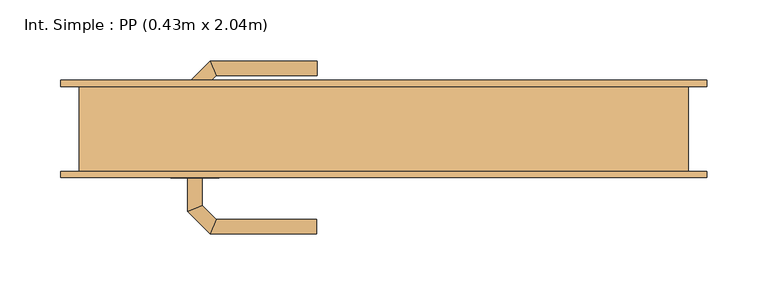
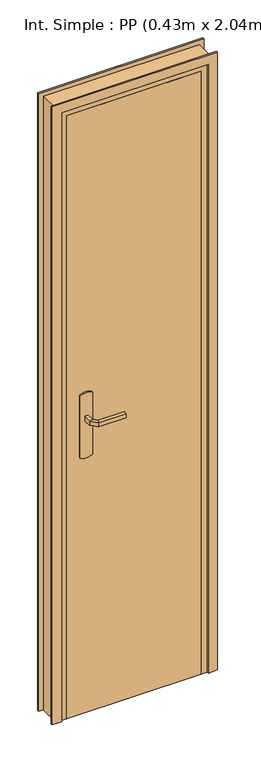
"""IFC4 building model written with IfcOpenShell, lengths in millimetres: door geometry, Int. Simple : PP (0.43m x 2.04m)."""

from ifc_helpers import new_model, si_unit, point, frame, frame_2d, origin, origin_with_axes, place, context, project, spatial, polyline, circle_curve, ellipse_curve, trimmed, segment, composite_curve, outline, extrude, faceted_brep, source, transform, mapped, element, save
from ifc_brep_helpers import plane_surface, cylinder_surface, advanced_brep


def int_simple_pp_0_43m_x_2_04m_b66857cc(model_context):
    return source(origin(), model_context, "Body", "SolidModel", [
        extrude(outline(composite_curve([segment(trimmed(circle_curve(frame_2d((904.6410162, -190.0)), 40.0), [point((870.0, -210.0))], [point((870.0, -170.0))], False, "CARTESIAN"), True, "CONTINUOUS"), segment(polyline([(870.0, -170.0), (1080.0, -170.0)]), True, "CONTINUOUS"), segment(trimmed(circle_curve(frame_2d((1045.3589838, -190.0)), 40.0), [point((1080.0, -170.0))], [point((1080.0, -210.0))], False, "CARTESIAN"), True, "CONTINUOUS"), segment(polyline([(1080.0, -210.0), (870.0, -210.0)]), True, "CONTINUOUS")], self_intersect=False)), frame((0.0, -40.0, 0.0), z_axis=(0.0, 1.0, 0.0), x_axis=(0.0, 0.0, 1.0)), (0.0, 0.0, 1.0), 5.0),
        extrude(outline(composite_curve([segment(trimmed(circle_curve(frame_2d((1045.3589838, -190.0)), 40.0), [point((1080.0, -170.0))], [point((1080.0, -210.0))], False, "CARTESIAN"), True, "CONTINUOUS"), segment(polyline([(1080.0, -210.0), (870.0, -210.0)]), True, "CONTINUOUS"), segment(trimmed(circle_curve(frame_2d((904.6410162, -190.0)), 40.0), [point((870.0, -210.0))], [point((870.0, -170.0))], False, "CARTESIAN"), True, "CONTINUOUS"), segment(polyline([(870.0, -170.0), (1080.0, -170.0)]), True, "CONTINUOUS")], self_intersect=False)), frame((0.0, 5.0, 0.0), z_axis=(0.0, 1.0, 0.0), x_axis=(0.0, 0.0, 1.0)), (0.0, 0.0, 1.0), 5.0),
        advanced_brep(
        [(-196.0, -40.0, 1007.0), (-184.0, -40.0, 1007.0), (-184.0, -40.0, 993.0), (-196.0, -40.0, 993.0), (-196.0, -67.6509507, 1007.0), (-184.0, -62.680388, 1007.0), (-184.0, -62.680388, 993.0), (-196.0, -67.6509507, 993.0), (-177.62279, -86.0281607, 1007.0), (-172.6522273, -74.0281607, 1007.0), (-172.6522273, -74.0281607, 993.0), (-177.62279, -86.0281607, 993.0), (-89.9813594, -86.0281607, 1007.0), (-89.9813594, -86.0281607, 993.0), (-89.9813594, -74.0281607, 993.0), (-89.9813594, -74.0281607, 1007.0)],
        [
            (0, 1, circle_curve(frame((-190.0, -40.0, 986.9542278), z_axis=(0.0, 1.0, 0.0), x_axis=(1.0, 0.0, 0.0)), 20.9244589)),
            (1, 2),
            (2, 3, circle_curve(frame((-190.0, -40.0, 1013.0457722), z_axis=(0.0, 1.0, 0.0), x_axis=(1.0, 0.0, 0.0)), 20.9244589)),
            (3, 0),
            (0, 4),
            (4, 5, ellipse_curve(frame((-190.0, -65.1656693, 986.9542278), z_axis=(-0.3826834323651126, 0.9238795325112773, 0.0), x_axis=(0.9238795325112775, 0.38268343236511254, 0.0)), 22.6484711, 20.9244589)),
            (5, 1),
            (5, 6),
            (6, 2),
            (6, 7, ellipse_curve(frame((-190.0, -65.1656693, 1013.0457722), z_axis=(-0.3826834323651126, 0.9238795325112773, 0.0), x_axis=(0.9238795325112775, 0.38268343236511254, 0.0)), 22.6484711, 20.9244589)),
            (7, 3),
            (7, 4),
            (4, 8),
            (8, 9, ellipse_curve(frame((-175.1375086, -80.0281607, 986.9542278), z_axis=(-0.9238795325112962, 0.38268343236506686, 0.0), x_axis=(0.3826834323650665, 0.9238795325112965, 0.0)), 22.6484711, 20.9244589)),
            (9, 5),
            (9, 10),
            (10, 6),
            (10, 11, ellipse_curve(frame((-175.1375086, -80.0281607, 1013.0457722), z_axis=(-0.9238795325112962, 0.38268343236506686, 0.0), x_axis=(0.3826834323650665, 0.9238795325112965, 0.0)), 22.6484711, 20.9244589)),
            (11, 7),
            (11, 8),
            (12, 13),
            (13, 14, circle_curve(frame((-89.9813594, -80.0281607, 1013.0457722), z_axis=(1.0, 0.0, 0.0), x_axis=(0.0, 1.0, 0.0)), 20.9244589)),
            (14, 15),
            (15, 12, circle_curve(frame((-89.9813594, -80.0281607, 986.9542278), z_axis=(1.0, 0.0, 0.0), x_axis=(0.0, 1.0, 0.0)), 20.9244589)),
            (8, 12),
            (15, 9),
            (14, 10),
            (13, 11),
        ],
        [
            plane_surface(frame((-199.2195445, -40.0, 1000.0), z_axis=(0.0, 1.0, 0.0), x_axis=(0.0, 0.0, -1.0))),
            cylinder_surface(frame((-190.0, -40.0, 986.9542278), z_axis=(0.0, 1.0, 0.0), x_axis=(1.0, 0.0, 0.0)), 20.9244589),
            plane_surface(frame((-184.0, -40.0, 1007.0), z_axis=(1.0, 0.0, 0.0), x_axis=(0.0, -1.0, 0.0))),
            cylinder_surface(frame((-190.0, -40.0, 1013.0457722), z_axis=(0.0, 1.0, 0.0), x_axis=(1.0, 0.0, 0.0)), 20.9244589),
            plane_surface(frame((-196.0, -40.0, 993.0), z_axis=(-1.0, 0.0, 0.0), x_axis=(0.0, -1.0, 0.0))),
            cylinder_surface(frame((-190.0, -65.1656693, 986.9542278), z_axis=(-0.7071067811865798, 0.7071067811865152, 0.0), x_axis=(0.7071067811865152, 0.7071067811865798, 0.0)), 20.9244589),
            plane_surface(frame((-184.0, -62.680388, 1007.0), z_axis=(0.7071067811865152, 0.7071067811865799, 0.0), x_axis=(0.7071067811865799, -0.7071067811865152, 0.0))),
            cylinder_surface(frame((-190.0, -65.1656693, 1013.0457722), z_axis=(-0.7071067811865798, 0.7071067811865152, 0.0), x_axis=(0.7071067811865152, 0.7071067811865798, 0.0)), 20.9244589),
            plane_surface(frame((-196.0, -67.6509507, 993.0), z_axis=(-0.7071067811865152, -0.7071067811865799, 0.0), x_axis=(0.7071067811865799, -0.7071067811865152, 0.0))),
            plane_surface(frame((-89.9813594, -80.0281607, 990.7804555), z_axis=(1.0, 0.0, 0.0), x_axis=(0.0, 1.0, 0.0))),
            cylinder_surface(frame((-175.1375086, -80.0281607, 986.9542278), z_axis=(-1.0, 0.0, 0.0), x_axis=(0.0, 1.0, 0.0)), 20.9244589),
            plane_surface(frame((-172.6522273, -74.0281607, 1007.0), z_axis=(0.0, 1.0, 0.0), x_axis=(1.0, 0.0, 0.0))),
            cylinder_surface(frame((-175.1375086, -80.0281607, 1013.0457722), z_axis=(-1.0, 0.0, 0.0), x_axis=(0.0, 1.0, 0.0)), 20.9244589),
            plane_surface(frame((-177.62279, -86.0281607, 993.0), z_axis=(0.0, -1.0, 0.0), x_axis=(1.0, 0.0, 0.0))),
        ],
        [
            (0, [[1, 2, 3, 4]]),
            (1, [[-1, 5, 6, 7]]),
            (2, [[-2, -7, 8, 9]]),
            (3, [[-3, -9, 10, 11]]),
            (4, [[-4, -11, 12, -5]]),
            (5, [[-6, 13, 14, 15]]),
            (6, [[-8, -15, 16, 17]]),
            (7, [[-10, -17, 18, 19]]),
            (8, [[-12, -19, 20, -13]]),
            (9, [[21, 22, 23, 24]]),
            (10, [[-14, 25, -24, 26]]),
            (11, [[-16, -26, -23, 27]]),
            (12, [[-18, -27, -22, 28]]),
            (13, [[-20, -28, -21, -25]]),
        ],
    ),
        advanced_brep(
        [(-184.0, 10.0, 993.0), (-184.0, 10.0, 1007.0), (-196.0, 10.0, 1007.0), (-196.0, 10.0, 993.0), (-184.0, 32.4852045, 993.0), (-184.0, 32.4852045, 1007.0), (-196.0, 37.4557673, 1007.0), (-196.0, 37.4557673, 993.0), (-172.5147186, 43.9704859, 993.0), (-172.5147186, 43.9704859, 1007.0), (-177.4852814, 55.9704859, 1007.0), (-177.4852814, 55.9704859, 993.0), (-89.9542163, 43.9704859, 993.0), (-89.9542163, 55.9704859, 993.0), (-89.9542163, 55.9704859, 1007.0), (-89.9542163, 43.9704859, 1007.0)],
        [
            (0, 1),
            (1, 2, circle_curve(frame((-190.0, 10.0, 986.9542278), z_axis=(0.0, -1.0, 0.0), x_axis=(-1.0, 0.0, 0.0)), 20.9244589)),
            (2, 3),
            (3, 0, circle_curve(frame((-190.0, 10.0, 1013.0457722), z_axis=(0.0, -1.0, 0.0), x_axis=(-1.0, 0.0, 0.0)), 20.9244589)),
            (0, 4),
            (4, 5),
            (5, 1),
            (5, 6, ellipse_curve(frame((-190.0, 34.9704859, 986.9542278), z_axis=(-0.3826834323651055, -0.9238795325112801, 0.0), x_axis=(0.9238795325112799, -0.3826834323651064, 0.0)), 22.6484711, 20.9244589)),
            (6, 2),
            (6, 7),
            (7, 3),
            (7, 4, ellipse_curve(frame((-190.0, 34.9704859, 1013.0457722), z_axis=(-0.3826834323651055, -0.9238795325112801, 0.0), x_axis=(0.9238795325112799, -0.3826834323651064, 0.0)), 22.6484711, 20.9244589)),
            (4, 8),
            (8, 9),
            (9, 5),
            (9, 10, ellipse_curve(frame((-175.0, 49.9704859, 986.9542278), z_axis=(-0.9238795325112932, -0.382683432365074, 0.0), x_axis=(0.3826834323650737, -0.9238795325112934, 0.0)), 22.6484711, 20.9244589)),
            (10, 6),
            (10, 11),
            (11, 7),
            (11, 8, ellipse_curve(frame((-175.0, 49.9704859, 1013.0457722), z_axis=(-0.9238795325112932, -0.382683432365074, 0.0), x_axis=(0.3826834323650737, -0.9238795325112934, 0.0)), 22.6484711, 20.9244589)),
            (12, 13, circle_curve(frame((-89.9542163, 49.9704859, 1013.0457722), z_axis=(1.0, 0.0, 0.0), x_axis=(0.0, 1.0, 0.0)), 20.9244589)),
            (13, 14),
            (14, 15, circle_curve(frame((-89.9542163, 49.9704859, 986.9542278), z_axis=(1.0, 0.0, 0.0), x_axis=(0.0, 1.0, 0.0)), 20.9244589)),
            (15, 12),
            (8, 12),
            (15, 9),
            (14, 10),
            (13, 11),
        ],
        [
            plane_surface(frame((-199.2195445, 10.0, 1000.0), z_axis=(0.0, -1.0, 0.0), x_axis=(0.0, 0.0, 1.0))),
            plane_surface(frame((-184.0, 10.0, 993.0), z_axis=(1.0, 0.0, 0.0), x_axis=(0.0, 1.0, 0.0))),
            cylinder_surface(frame((-190.0, 10.0, 986.9542278), z_axis=(0.0, -1.0, 0.0), x_axis=(-1.0, 0.0, 0.0)), 20.9244589),
            plane_surface(frame((-196.0, 10.0, 1007.0), z_axis=(-1.0, 0.0, 0.0), x_axis=(0.0, 1.0, 0.0))),
            cylinder_surface(frame((-190.0, 10.0, 1013.0457722), z_axis=(0.0, -1.0, 0.0), x_axis=(-1.0, 0.0, 0.0)), 20.9244589),
            plane_surface(frame((-184.0, 32.4852045, 993.0), z_axis=(0.7071067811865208, -0.7071067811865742, 0.0), x_axis=(0.7071067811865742, 0.7071067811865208, 0.0))),
            cylinder_surface(frame((-190.0, 34.9704859, 986.9542278), z_axis=(-0.7071067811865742, -0.7071067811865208, 0.0), x_axis=(-0.7071067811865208, 0.7071067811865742, 0.0)), 20.9244589),
            plane_surface(frame((-196.0, 37.4557673, 1007.0), z_axis=(-0.7071067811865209, 0.7071067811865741, 0.0), x_axis=(0.7071067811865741, 0.7071067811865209, 0.0))),
            cylinder_surface(frame((-190.0, 34.9704859, 1013.0457722), z_axis=(-0.7071067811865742, -0.7071067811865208, 0.0), x_axis=(-0.7071067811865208, 0.7071067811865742, 0.0)), 20.9244589),
            plane_surface(frame((-89.9542163, 49.9704859, 990.7804555), z_axis=(1.0, 0.0, 0.0), x_axis=(0.0, 1.0, 0.0))),
            plane_surface(frame((-172.5147186, 43.9704859, 993.0), z_axis=(0.0, -1.0, 0.0), x_axis=(1.0, 0.0, 0.0))),
            cylinder_surface(frame((-175.0, 49.9704859, 986.9542278), z_axis=(-1.0, 0.0, 0.0), x_axis=(0.0, 1.0, 0.0)), 20.9244589),
            plane_surface(frame((-177.4852814, 55.9704859, 1007.0), z_axis=(0.0, 1.0, 0.0), x_axis=(1.0, 0.0, 0.0))),
            cylinder_surface(frame((-175.0, 49.9704859, 1013.0457722), z_axis=(-1.0, 0.0, 0.0), x_axis=(0.0, 1.0, 0.0)), 20.9244589),
        ],
        [
            (0, [[1, 2, 3, 4]]),
            (1, [[-1, 5, 6, 7]]),
            (2, [[-2, -7, 8, 9]]),
            (3, [[-3, -9, 10, 11]]),
            (4, [[-4, -11, 12, -5]]),
            (5, [[-6, 13, 14, 15]]),
            (6, [[-8, -15, 16, 17]]),
            (7, [[-10, -17, 18, 19]]),
            (8, [[-12, -19, 20, -13]]),
            (9, [[21, 22, 23, 24]]),
            (10, [[-14, 25, -24, 26]]),
            (11, [[-16, -26, -23, 27]]),
            (12, [[-18, -27, -22, 28]]),
            (13, [[-20, -28, -21, -25]]),
        ],
    ),
        extrude(outline(polyline([(-250.0, 5.0), (180.0, 5.0), (180.0, -35.0), (-250.0, -35.0), (-250.0, 5.0)])), origin_with_axes(), (0.0, 0.0, 1.0), 2040.0),
        faceted_brep([(-285.0, -35.0, 0.0), (-285.0, 35.0, 0.0), (-235.0, 35.0, 0.0), (-235.0, 5.0, 0.0), (-250.0, 5.0, 0.0), (-250.0, -35.0, 0.0), (-285.0, -35.0, 2075.0), (-285.0, 35.0, 2075.0), (215.0, 35.0, 2075.0), (215.0, 35.0, 0.0), (165.0, 35.0, 0.0), (165.0, 35.0, 2025.0), (-235.0, 35.0, 2025.0), (-235.0, 5.0, 2025.0), (165.0, 5.0, 2025.0), (165.0, 5.0, 0.0), (180.0, 5.0, 0.0), (180.0, 5.0, 2040.0), (-250.0, 5.0, 2040.0), (-250.0, -35.0, 2040.0), (180.0, -35.0, 2040.0), (180.0, -35.0, 0.0), (215.0, -35.0, 0.0), (215.0, -35.0, 2075.0)], [[[0, 1, 2, 3, 4, 5]], [[1, 0, 6, 7]], [[2, 1, 7, 8, 9, 10, 11, 12]], [[3, 2, 12, 13]], [[4, 3, 13, 14, 15, 16, 17, 18]], [[5, 4, 18, 19]], [[0, 5, 19, 20, 21, 22, 23, 6]], [[8, 23, 22, 9]], [[22, 21, 16, 15, 10, 9]], [[14, 11, 10, 15]], [[20, 17, 16, 21]], [[7, 6, 23, 8]], [[13, 12, 11, 14]], [[19, 18, 17, 20]]]),
        extrude(outline(polyline([(0.0, -300.0), (0.0, -270.0), (2060.0, -270.0), (2060.0, 200.0), (0.0, 200.0), (0.0, 230.0), (2090.0, 230.0), (2090.0, -300.0), (0.0, -300.0)])), frame((0.0, -40.0, 0.0), z_axis=(0.0, 1.0, 0.0), x_axis=(0.0, 0.0, 1.0)), (0.0, 0.0, 1.0), 5.0),
        extrude(outline(polyline([(0.0, -300.0), (0.0, -270.0), (2060.0, -270.0), (2060.0, 200.0), (0.0, 200.0), (0.0, 230.0), (2090.0, 230.0), (2090.0, -300.0), (0.0, -300.0)])), frame((0.0, 35.0, 0.0), z_axis=(0.0, 1.0, 0.0), x_axis=(0.0, 0.0, 1.0)), (0.0, 0.0, 1.0), 5.0),
    ])


if __name__ == "__main__":
    model = new_model("IFC4")
    model_context = context("Model", 3, world=origin())
    ifc_project = project(units=[si_unit("LENGTHUNIT", "METRE", prefix="MILLI")], contexts=[model_context])
    site = spatial("IfcSite", under=ifc_project)
    building = spatial("IfcBuilding", under=site)
    placement = place(None, origin())
    int_simple_pp_0_43m_x_2_04m_shape = int_simple_pp_0_43m_x_2_04m_b66857cc(model_context)
    element("IfcDoor", 1, ObjectType="Int. Simple : PP (0.43m x 2.04m)", at=placement, inside=building, context=model_context, shape_type="MappedRepresentation", body=[
        mapped(int_simple_pp_0_43m_x_2_04m_shape, transform((0.0, 0.0, 0.0), x_axis=(1.0, 0.0, 0.0), y_axis=(0.0, 1.0, 0.0), z_axis=(0.0, 0.0, 1.0))),
    ])
    save(model, "model.ifc")
